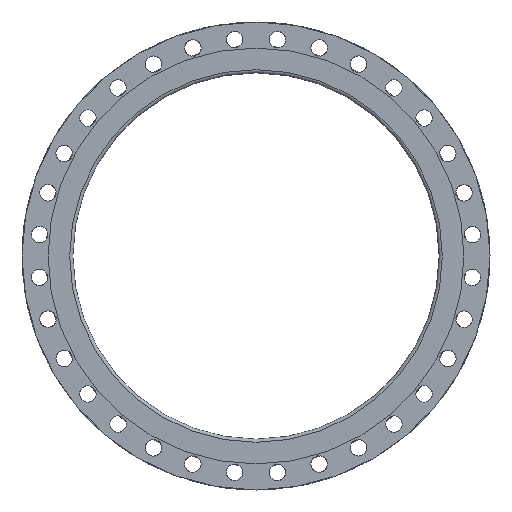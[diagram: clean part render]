
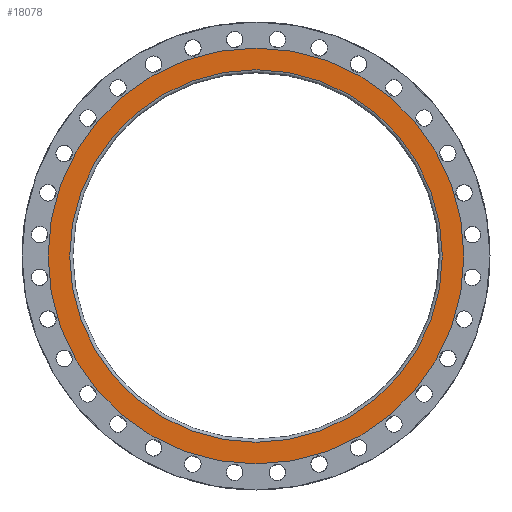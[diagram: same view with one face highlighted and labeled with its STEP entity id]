
A CAD part, left-side view. The second image highlights one B-rep face of the part: STEP entity #18078.
In plain terms, the highlighted planar face has unit normal (-1, 0, 0).
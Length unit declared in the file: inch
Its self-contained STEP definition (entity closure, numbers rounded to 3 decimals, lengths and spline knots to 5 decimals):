
#1945=PLANE('',#19272);
#2397=FACE_BOUND('',#4041,.T.);
#2801=FACE_OUTER_BOUND('',#4040,.T.);
#4040=EDGE_LOOP('',(#11484));
#4041=EDGE_LOOP('',(#11485));
#5387=CIRCLE('',#19203,20.4375);
#5421=CIRCLE('',#19271,18.3125);
#6959=VERTEX_POINT('',#27983);
#6993=VERTEX_POINT('',#28085);
#8755=EDGE_CURVE('',#6959,#6959,#5387,.T.);
#8789=EDGE_CURVE('',#6993,#6993,#5421,.T.);
#11484=ORIENTED_EDGE('',*,*,#8755,.F.);
#11485=ORIENTED_EDGE('',*,*,#8789,.T.);
#18078=ADVANCED_FACE('',(#2801,#2397),#1945,.T.);
#19203=AXIS2_PLACEMENT_3D('',#27984,#21983,#21984);
#19271=AXIS2_PLACEMENT_3D('',#28086,#22119,#22120);
#19272=AXIS2_PLACEMENT_3D('',#28087,#22121,#22122);
#21983=DIRECTION('center_axis',(1.,0.,0.));
#21984=DIRECTION('ref_axis',(0.,0.,-1.));
#22119=DIRECTION('center_axis',(1.,0.,0.));
#22120=DIRECTION('ref_axis',(0.,0.,-1.));
#22121=DIRECTION('center_axis',(-1.,0.,0.));
#22122=DIRECTION('ref_axis',(0.,0.,1.));
#27983=CARTESIAN_POINT('',(-7.,20.4375,0.));
#27984=CARTESIAN_POINT('Origin',(-7.,0.,0.));
#28085=CARTESIAN_POINT('',(-7.,18.3125,0.));
#28086=CARTESIAN_POINT('Origin',(-7.,0.,0.));
#28087=CARTESIAN_POINT('Origin',(-7.,20.4375,0.));
